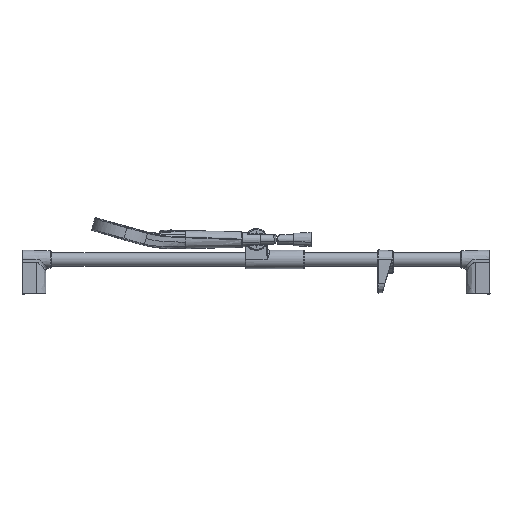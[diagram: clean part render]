
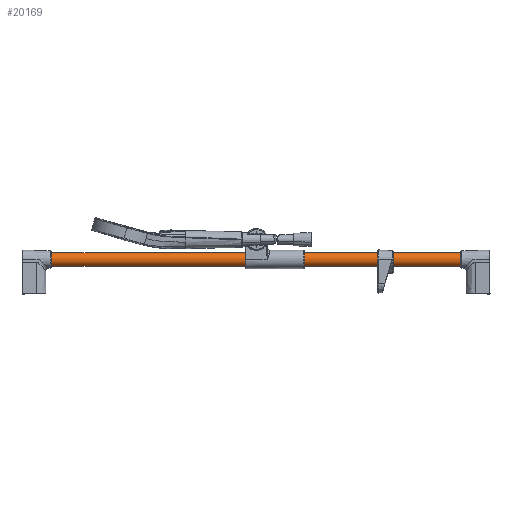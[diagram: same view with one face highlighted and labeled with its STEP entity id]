
A CAD part, left-side view. The second image highlights one B-rep face of the part: STEP entity #20169.
In plain terms, the highlighted cylindrical face has radius 10.95 mm (diameter 21.9 mm), a partial arc.
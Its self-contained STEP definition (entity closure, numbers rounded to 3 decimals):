
#373 = VERTEX_POINT ( 'NONE', #10099 ) ;
#395 = EDGE_CURVE ( 'NONE', #373, #9731, #1379, .T. ) ;
#924 = EDGE_CURVE ( 'NONE', #373, #17231, #27771, .T. ) ;
#1210 = CARTESIAN_POINT ( 'NONE',  ( 0., 343.7, 0. ) ) ;
#1379 = CIRCLE ( 'NONE', #6170, 10.95 ) ;
#5144 = DIRECTION ( 'NONE',  ( 0., 0., 1. ) ) ;
#5387 = LINE ( 'NONE', #25536, #29148 ) ;
#6170 = AXIS2_PLACEMENT_3D ( 'NONE', #1210, #27175, #15522 ) ;
#6815 = ORIENTED_EDGE ( 'NONE', *, *, #395, .T. ) ;
#7805 = CARTESIAN_POINT ( 'NONE',  ( 0., 343.7, -10.95 ) ) ;
#9229 = CARTESIAN_POINT ( 'NONE',  ( 0., -416.3, -10.95 ) ) ;
#9731 = VERTEX_POINT ( 'NONE', #7805 ) ;
#10099 = CARTESIAN_POINT ( 'NONE',  ( 0., 343.7, 10.95 ) ) ;
#10440 = DIRECTION ( 'NONE',  ( 0., -1., 0. ) ) ;
#10806 = FACE_OUTER_BOUND ( 'NONE', #32435, .T. ) ;
#11628 = VECTOR ( 'NONE', #22135, 1000. ) ;
#14245 = CARTESIAN_POINT ( 'NONE',  ( 0., -416.3, 10.95 ) ) ;
#15522 = DIRECTION ( 'NONE',  ( 0., 0., -1. ) ) ;
#17231 = VERTEX_POINT ( 'NONE', #14245 ) ;
#17263 = EDGE_CURVE ( 'NONE', #9731, #23565, #5387, .T. ) ;
#17270 = DIRECTION ( 'NONE',  ( 0., -1., 0. ) ) ;
#20103 = DIRECTION ( 'NONE',  ( 0., 0., -1. ) ) ;
#20169 = ADVANCED_FACE ( 'NONE', ( #10806 ), #22282, .T. ) ;
#22055 = AXIS2_PLACEMENT_3D ( 'NONE', #25361, #17270, #20103 ) ;
#22135 = DIRECTION ( 'NONE',  ( 0., -1., 0. ) ) ;
#22282 = CYLINDRICAL_SURFACE ( 'NONE', #34587, 10.95 ) ;
#23565 = VERTEX_POINT ( 'NONE', #9229 ) ;
#23910 = ORIENTED_EDGE ( 'NONE', *, *, #924, .F. ) ;
#24958 = CARTESIAN_POINT ( 'NONE',  ( 0., 343.7, 10.95 ) ) ;
#25167 = EDGE_CURVE ( 'NONE', #17231, #23565, #30438, .T. ) ;
#25361 = CARTESIAN_POINT ( 'NONE',  ( 0., -416.3, 0. ) ) ;
#25536 = CARTESIAN_POINT ( 'NONE',  ( 0., 343.7, -10.95 ) ) ;
#26902 = ORIENTED_EDGE ( 'NONE', *, *, #17263, .T. ) ;
#27175 = DIRECTION ( 'NONE',  ( 0., -1., 0. ) ) ;
#27771 = LINE ( 'NONE', #24958, #11628 ) ;
#29148 = VECTOR ( 'NONE', #37153, 1000. ) ;
#30438 = CIRCLE ( 'NONE', #22055, 10.95 ) ;
#30908 = CARTESIAN_POINT ( 'NONE',  ( 0., 343.7, 0. ) ) ;
#31505 = ORIENTED_EDGE ( 'NONE', *, *, #25167, .F. ) ;
#32435 = EDGE_LOOP ( 'NONE', ( #6815, #26902, #31505, #23910 ) ) ;
#34587 = AXIS2_PLACEMENT_3D ( 'NONE', #30908, #10440, #5144 ) ;
#37153 = DIRECTION ( 'NONE',  ( 0., -1., 0. ) ) ;
